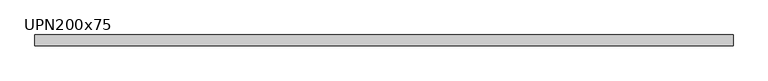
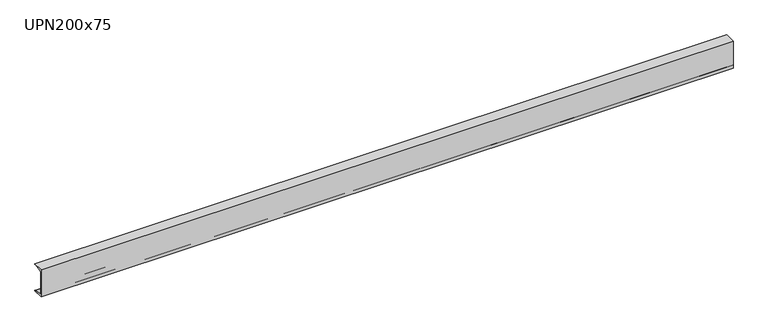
"""IFC4 building model written with IfcOpenShell, lengths in millimetres: beam geometry, M_MC Shapes : UPN200x75."""

from ifc_helpers import new_model, si_unit, point, frame, frame_2d, origin, place, context, project, spatial, polyline, circle_curve, trimmed, segment, composite_curve, outline, extrude, source, transform, mapped, element, save


def upn200x75_bf5f1a6f(model_context):
    return source(origin(), model_context, "Body", "SweptSolid", [
        extrude(outline(composite_curve([segment(polyline([(-10.9, 100.0), (64.1, 100.0), (64.1, 99.0253247)]), True, "CONTINUOUS"), segment(trimmed(circle_curve(frame_2d((60.15, 99.0253247)), 3.95), [point((64.1, 99.0253247))], [point((60.7993773, 95.1290689))], False, "CARTESIAN"), True, "CONTINUOUS"), segment(polyline([(60.7993773, 95.1290689), (0.2512455, 85.0376935)]), True, "CONTINUOUS"), segment(trimmed(circle_curve(frame_2d((1.55, 77.2451819)), 7.9), [point((0.2512455, 85.0376935))], [point((-6.35, 77.2451819))], True, "CARTESIAN"), True, "CONTINUOUS"), segment(polyline([(-6.35, 77.2451819), (-6.35, -77.2451819)]), True, "CONTINUOUS"), segment(trimmed(circle_curve(frame_2d((1.55, -77.2451819)), 7.9), [point((-6.35, -77.2451819))], [point((0.2512455, -85.0376935))], True, "CARTESIAN"), True, "CONTINUOUS"), segment(polyline([(0.2512455, -85.0376935), (60.7993773, -95.1290689)]), True, "CONTINUOUS"), segment(trimmed(circle_curve(frame_2d((60.15, -99.0253247)), 3.95), [point((60.7993773, -95.1290689))], [point((64.1, -99.0253247))], False, "CARTESIAN"), True, "CONTINUOUS"), segment(polyline([(64.1, -99.0253247), (64.1, -100.0), (-10.9, -100.0), (-10.9, 100.0)]), True, "CONTINUOUS")], self_intersect=False)), frame((-2426.05, 0.0, 0.0), z_axis=(1.0, 0.0, 0.0), x_axis=(0.0, 1.0, 0.0)), (0.0, 0.0, 1.0), 4852.1),
    ])


if __name__ == "__main__":
    model = new_model("IFC4")
    model_context = context("Model", 3, world=origin())
    ifc_project = project(units=[si_unit("LENGTHUNIT", "METRE", prefix="MILLI")], contexts=[model_context])
    site = spatial("IfcSite", under=ifc_project)
    building = spatial("IfcBuilding", under=site)
    placement = place(None, origin())
    upn200x75_shape = upn200x75_bf5f1a6f(model_context)
    element("IfcBeam", 1, ObjectType="M_MC Shapes : UPN200x75", at=placement, inside=building, context=model_context, shape_type="MappedRepresentation", body=[
        mapped(upn200x75_shape, transform((0.0, 0.0, 0.0), x_axis=(1.0, 0.0, 0.0), y_axis=(0.0, 1.0, 0.0), z_axis=(0.0, 0.0, 1.0))),
    ])
    save(model, "model.ifc")
